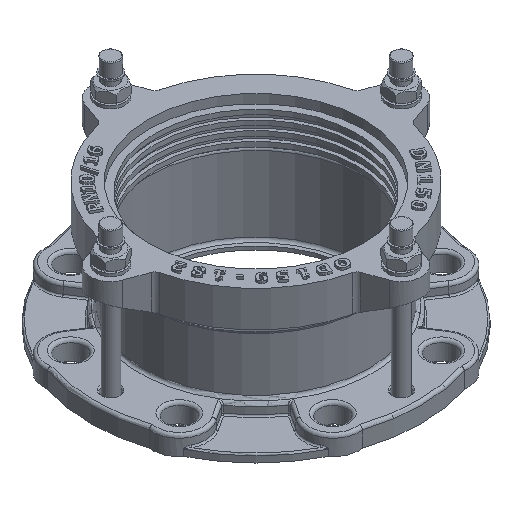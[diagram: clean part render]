
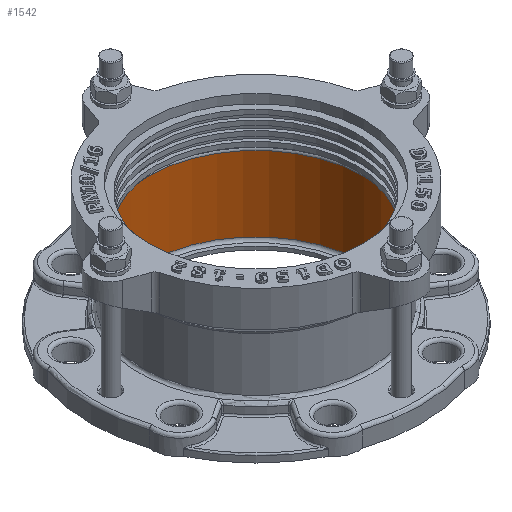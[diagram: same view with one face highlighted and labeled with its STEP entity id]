
A CAD part, isometric view. The second image highlights one B-rep face of the part: STEP entity #1542.
In plain terms, the highlighted cylindrical face has radius 91 mm (diameter 182 mm), a full revolution.
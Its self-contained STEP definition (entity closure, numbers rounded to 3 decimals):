
#1542=ADVANCED_FACE('',(#10638,#10640),#10642,.F.);
#10638=FACE_OUTER_BOUND('',#10639,.T.);
#10639=EDGE_LOOP('',(#16238));
#10640=FACE_OUTER_BOUND('',#10641,.T.);
#10641=EDGE_LOOP('',(#16239));
#10642=CYLINDRICAL_SURFACE('',#10643,91.);
#10643=AXIS2_PLACEMENT_3D('',#10644,#10645,#10646);
#10644=CARTESIAN_POINT('',(0.,0.,3.));
#10645=DIRECTION('',(0.,0.,1.));
#10646=DIRECTION('',(-1.,0.,0.));
#16238=ORIENTED_EDGE('',*,*,#21034,.F.);
#16239=ORIENTED_EDGE('',*,*,#21033,.T.);
#21033=EDGE_CURVE('',#23758,#23758,#23759,.F.);
#21034=EDGE_CURVE('',#23760,#23760,#23761,.T.);
#23758=VERTEX_POINT('',#33543);
#23759=CIRCLE('',#33544,91.);
#23760=VERTEX_POINT('',#33548);
#23761=CIRCLE('',#33549,91.);
#33543=CARTESIAN_POINT('',(0.,91.,5.5));
#33544=AXIS2_PLACEMENT_3D('',#33545,#33546,#33547);
#33545=CARTESIAN_POINT('',(0.,0.,5.5));
#33546=DIRECTION('',(0.,0.,1.));
#33547=DIRECTION('',(0.,1.,0.));
#33548=CARTESIAN_POINT('',(0.,91.,68.75));
#33549=AXIS2_PLACEMENT_3D('',#33550,#33551,#33552);
#33550=CARTESIAN_POINT('',(0.,0.,68.75));
#33551=DIRECTION('',(0.,0.,-1.));
#33552=DIRECTION('',(0.,1.,0.));
